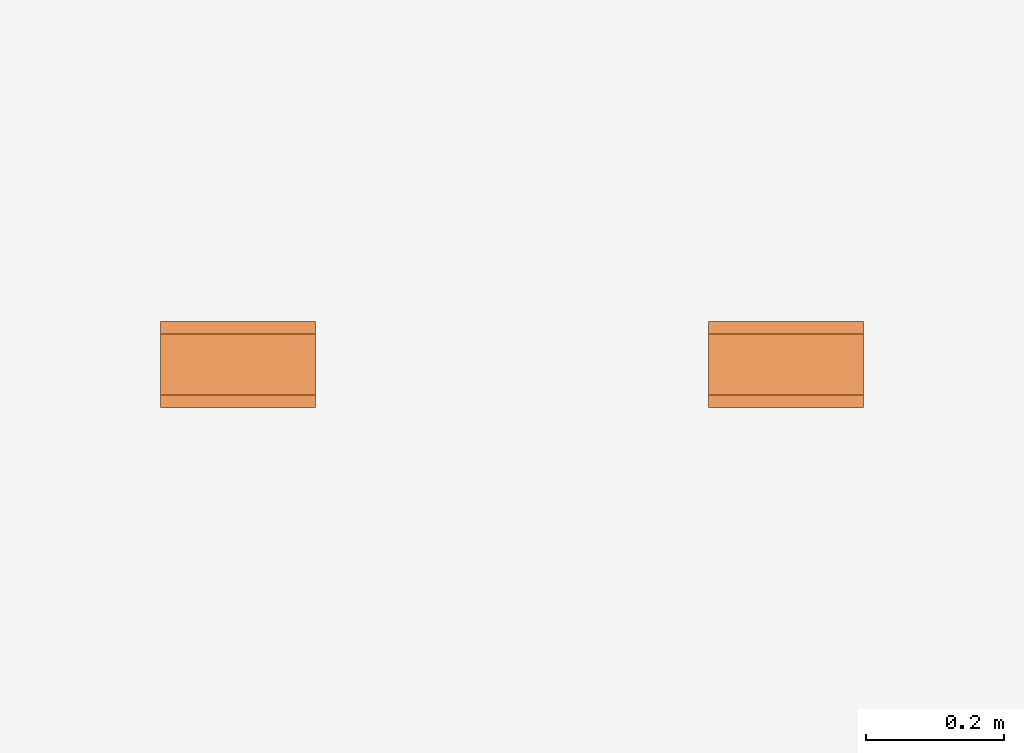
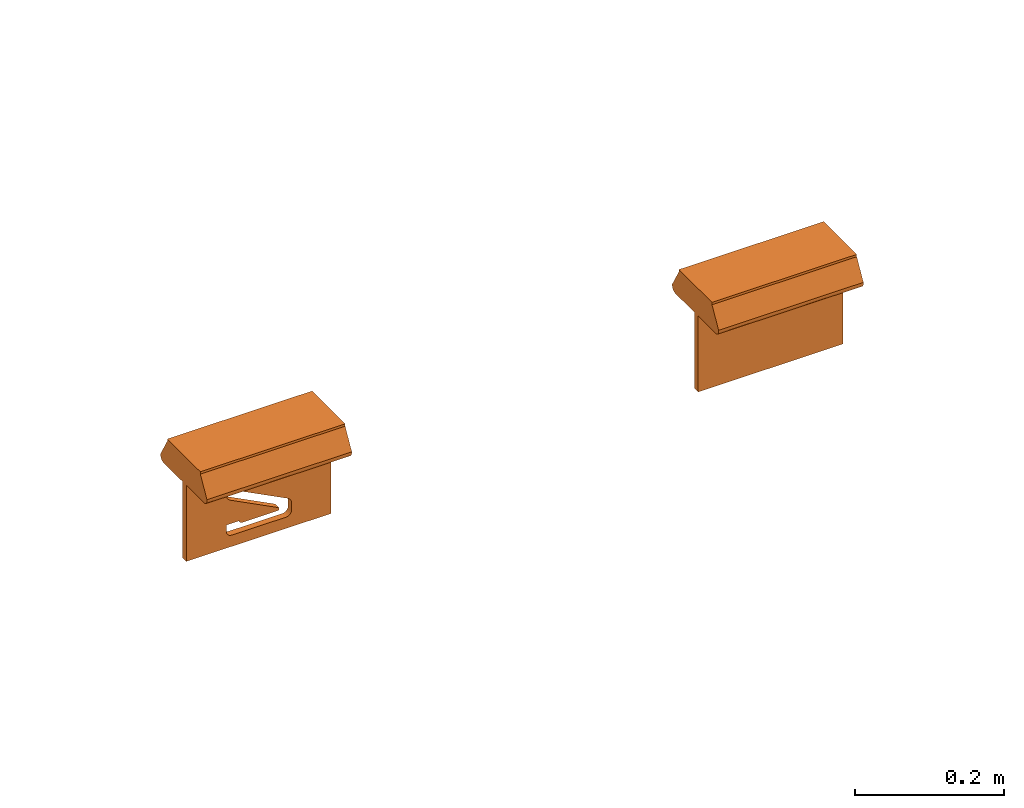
# One storey, part 51 of 197: 2 proxies.
"""IFC2X3 building model written with IfcOpenShell, lengths in metres."""

from ifc_helpers import new_model, entity, si_unit, converted_unit, direction, frame, frame_2d, origin, place, context, subcontext, project, spatial, polyline, circle_curve, parameter, trimmed, segment, composite_curve, outline, extrude, source, transform, mapped, material, material_list, type_object, type_shapes, element, save


model = new_model("IFC2X3")

# Units and contexts
model_context = context("Model", 3, precision=1e-05, world=origin(), true_north=direction((6.123031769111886e-17, 1.0)))
body_context = subcontext(model_context, "Body", "Model", "MODEL_VIEW")
ifc_project = project(units=[si_unit("LENGTHUNIT", "METRE"), converted_unit("PLANEANGLEUNIT", "DEGREE", entity("IfcPlaneAngleMeasure", 0.017453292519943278), si_unit("PLANEANGLEUNIT", "RADIAN"), dimensions=[0, 0, 0, 0, 0, 0, 0]), si_unit("AREAUNIT", "SQUARE_METRE")], contexts=[model_context])

# Site, building, storey
site_placement = place(None, origin())
site = spatial("IfcSite", under=ifc_project, at=site_placement, Name="Default", CompositionType="ELEMENT")
building_placement = place(site_placement, origin())
building = spatial("IfcBuilding", under=site, at=building_placement, CompositionType="ELEMENT")
storey_placement = place(building_placement, origin())
storey = spatial("IfcBuildingStorey", under=building, at=storey_placement, Name="Niveau 0", CompositionType="ELEMENT", Elevation=0.0)

# Proxies
ifc_material_1 = material(Name="BETCE-ETIQUETTE-BLANC")
ifc_material_2 = material(Name="BETCE-ETIQUETTE-VERT 0-193-0")
ifc_material_3 = material(Name="BETCE-VITRE BAES-BLEU")
ifc_material_4 = material(Name="BETCE-ENVELOPPE-BLANC")
ifc_material_list_1 = material_list([ifc_material_1, ifc_material_2, ifc_material_3, ifc_material_4])
building_element_proxy_type_1 = type_object("IfcBuildingElementProxyType", Name="Eclairage de sécurité saillie plafond:AMBIANCE", PredefinedType="NOTDEFINED", material=ifc_material_list_1)
shared_shape_1 = source(origin(), body_context, "Body", "SweptSolid", [
    extrude(outline(polyline([(-0.011070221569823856, -0.05892479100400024), (0.011390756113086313, -0.05892479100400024), (0.0510682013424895, 0.026163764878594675), (0.0288009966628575, 0.026163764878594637), (0.01967698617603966, 0.006597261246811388), (-0.01999752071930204, 0.006597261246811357), (-0.029121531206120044, 0.026163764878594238), (-0.050747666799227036, 0.026163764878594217), (-0.011070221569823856, -0.05892479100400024)]), holes=[polyline([(-0.012794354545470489, -0.00884997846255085), (0.012473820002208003, -0.008849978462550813), (-0.00016026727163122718, -0.0359438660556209), (-0.012794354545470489, -0.00884997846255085)])]), frame((0.0002390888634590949, -0.005, -0.12540916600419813), z_axis=(0.0, 1.0, 0.0), x_axis=(1.0, 0.0, 0.0)), (0.0, 0.0, 1.0), 0.009999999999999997),
    extrude(outline(polyline([(-0.05249999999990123, -0.10250000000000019), (0.052499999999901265, -0.10250000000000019), (0.052499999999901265, 0.10250000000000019), (-0.05249999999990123, 0.10250000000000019), (-0.05249999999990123, -0.10250000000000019)]), holes=[polyline([(0.044072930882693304, 0.050508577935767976), (0.04407293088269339, 0.028882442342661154), (0.024506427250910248, 0.019758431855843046), (0.0245064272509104, -0.01991607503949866), (0.04407293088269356, -0.02904008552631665), (0.04407293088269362, -0.05130729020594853), (-0.041015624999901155, -0.011629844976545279), (-0.041015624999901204, 0.010831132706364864), (0.044072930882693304, 0.050508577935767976)])]), frame((0.0, -0.005, -0.10750000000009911), z_axis=(0.0, 1.0, 0.0), x_axis=(0.0, 0.0, -1.0)), (0.0, 0.0, 1.0), 0.01),
    extrude(outline(polyline([(-0.013524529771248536, -0.0076335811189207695), (0.016370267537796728, -0.007633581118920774), (-0.0028457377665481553, 0.015267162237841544), (-0.013524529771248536, -0.0076335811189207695)])), frame((7.882159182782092e-05, -0.004999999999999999, -0.1075278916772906), z_axis=(0.0, 1.0, 0.0), x_axis=(0.42261826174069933, 0.0, 0.90630778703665)), (0.0, 0.0, 1.0), 0.01),
    extrude(outline(polyline([(-0.06250000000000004, -0.11175180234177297), (0.062499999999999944, -0.11175180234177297), (0.06249999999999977, -5.459731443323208e-05), (0.0625000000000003, 0.11324819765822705), (-0.06249999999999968, 0.11324819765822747), (-0.06250000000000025, -0.0029381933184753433), (-0.06250000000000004, -0.11175180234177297)]), holes=[polyline([(0.052499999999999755, 0.0013023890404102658), (0.05249999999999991, -0.10175180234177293), (-0.05250000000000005, -0.10175180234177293), (-0.05250000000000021, -0.0022597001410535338), (-0.05249999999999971, 0.10324819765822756), (0.05250000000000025, 0.10324819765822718), (0.052499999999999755, 0.0013023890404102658)])]), frame((-0.0007481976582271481, -0.005, -0.10750000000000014), z_axis=(0.0, 1.0, 0.0), x_axis=(0.0, 0.0, 1.0)), (0.0, 0.0, 1.0), 0.01),
    extrude(outline(composite_curve([segment(trimmed(circle_curve(frame_2d((-0.001999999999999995, -0.05449999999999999), x_axis=(1.0, 0.0)), 0.008), [parameter(269.9999999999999)], [parameter(0.0)], True, "PARAMETER"), True, "CONTINUOUS"), segment(polyline([(0.006000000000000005, -0.05449999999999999), (0.006000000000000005, 0.054500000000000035)]), True, "CONTINUOUS"), segment(trimmed(circle_curve(frame_2d((-0.001999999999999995, 0.05450000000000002), x_axis=(1.0, 0.0)), 0.008), [parameter(359.99999999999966)], [parameter(89.99999999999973)], True, "PARAMETER"), True, "CONTINUOUS"), segment(polyline([(-0.0019999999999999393, 0.06250000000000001), (-0.00399999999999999, 0.06250000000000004)]), True, "CONTINUOUS"), segment(polyline([(-0.00399999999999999, 0.06250000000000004), (-0.00399999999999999, -0.0625)]), True, "CONTINUOUS"), segment(polyline([(-0.00399999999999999, -0.0625), (-0.001999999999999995, -0.0625)]), True, "CONTINUOUS")], self_intersect=False)), frame((-0.1125, 0.0019999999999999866, -0.039), z_axis=(1.0, 0.0, 0.0), x_axis=(0.0, 0.0, -1.0)), (0.0, 0.0, 1.0), 0.22499999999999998),
    extrude(outline(polyline([(-0.06250000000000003, -0.02205897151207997), (0.06250000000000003, -0.02205897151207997), (0.044499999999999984, 0.00911794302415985), (0.044499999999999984, 0.012941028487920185), (-0.044499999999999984, 0.012941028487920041), (-0.04449999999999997, 0.009117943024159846), (-0.06250000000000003, -0.02205897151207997)])), frame((-0.11249999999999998, 0.002000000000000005, -0.012941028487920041), z_axis=(1.0, 0.0, 0.0), x_axis=(0.0, 1.0, 0.0)), (0.0, 0.0, 1.0), 0.225),
])
type_shapes(building_element_proxy_type_1, [shared_shape_1])
proxy_1_placement = place(storey_placement, frame((-489.098972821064, 108.51998673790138, 1.4999999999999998)))
element("IfcBuildingElementProxy", 1, at=proxy_1_placement, inside=storey, type_object=building_element_proxy_type_1, material=ifc_material_list_1, Name="Eclairage de sécurité saillie plafond:AMBIANCE", ObjectType="Eclairage de sécurité saillie plafond:AMBIANCE", context=body_context, shape_type="MappedRepresentation", body=[
    mapped(shared_shape_1, transform((0.0, 0.0, 0.0), scale=1.0)),
])
ifc_material_list_2 = material_list([ifc_material_2, ifc_material_4, ifc_material_3])
building_element_proxy_type_2 = type_object("IfcBuildingElementProxyType", Name="Eclairage de sécurité saillie plafond:SORTIE", PredefinedType="NOTDEFINED", material=ifc_material_list_2)
shared_shape_2 = source(origin(), body_context, "Body", "SweptSolid", [
    extrude(outline(polyline([(-0.05249999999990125, -0.10250000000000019), (0.05249999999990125, -0.10250000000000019), (0.05249999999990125, 0.10250000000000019), (-0.05249999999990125, 0.10250000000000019), (-0.05249999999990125, -0.10250000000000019)]), holes=[composite_curve([segment(trimmed(circle_curve(frame_2d((-0.03544806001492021, 0.041676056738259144), x_axis=(0.0, -1.0)), 0.008677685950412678), [parameter(179.9999999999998)], [parameter(269.9999999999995)], True, "PARAMETER"), False, "CONTINUOUS"), segment(polyline([(-0.03544806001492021, 0.05035374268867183), (-0.024600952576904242, 0.05035374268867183)]), True, "CONTINUOUS"), segment(trimmed(circle_curve(frame_2d((-0.024600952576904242, 0.0382049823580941), x_axis=(0.0, -1.0)), 0.01214876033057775), [parameter(125.70439290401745)], [parameter(179.9999999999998)], True, "PARAMETER"), False, "CONTINUOUS"), segment(polyline([(-0.014735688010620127, 0.045295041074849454), (0.0245331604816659, -0.031263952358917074)]), True, "CONTINUOUS"), segment(trimmed(circle_curve(frame_2d((0.02611047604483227, -0.029068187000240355), x_axis=(0.0, -1.0)), 0.0027035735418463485), [parameter(324.30863793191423)], [parameter(90.0000000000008)], True, "PARAMETER"), True, "CONTINUOUS"), segment(polyline([(0.02881404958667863, -0.029068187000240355), (0.028814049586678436, 0.026056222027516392)]), True, "CONTINUOUS"), segment(trimmed(circle_curve(frame_2d((0.024475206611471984, 0.026056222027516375), x_axis=(0.0, -1.0)), 0.004338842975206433), [parameter(90.00000000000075)], [parameter(180.00000000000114)], True, "PARAMETER"), True, "CONTINUOUS"), segment(polyline([(0.024475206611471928, 0.030395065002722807), (0.024475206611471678, 0.05035374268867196)]), True, "CONTINUOUS"), segment(polyline([(0.024475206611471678, 0.05035374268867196), (0.0353223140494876, 0.05035374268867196)]), True, "CONTINUOUS"), segment(trimmed(circle_curve(frame_2d((0.0353223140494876, 0.04167605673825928), x_axis=(0.0, -1.0)), 0.008677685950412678), [parameter(90.00000000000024)], [parameter(179.99999999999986)], True, "PARAMETER"), False, "CONTINUOUS"), segment(polyline([(0.043999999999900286, 0.041676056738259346), (0.04399999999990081, -0.04247476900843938)]), True, "CONTINUOUS"), segment(trimmed(circle_curve(frame_2d((0.03532231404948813, -0.04247476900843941), x_axis=(0.0, -1.0)), 0.008677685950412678), [parameter(3.5622212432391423e-13)], [parameter(89.99999999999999)], True, "PARAMETER"), False, "CONTINUOUS"), segment(polyline([(0.03532231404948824, -0.05115245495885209), (0.024475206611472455, -0.05115245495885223)]), True, "CONTINUOUS"), segment(trimmed(circle_curve(frame_2d((0.024475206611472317, -0.0390036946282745), x_axis=(0.0, -1.0)), 0.01214876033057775), [parameter(305.7043929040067)], [parameter(3.053332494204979e-13)], True, "PARAMETER"), False, "CONTINUOUS"), segment(polyline([(0.014609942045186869, -0.04609375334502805), (-0.023851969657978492, 0.02889202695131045)]), True, "CONTINUOUS"), segment(trimmed(circle_curve(frame_2d((-0.026249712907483, 0.027662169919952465), x_axis=(0.0, -1.0)), 0.00269008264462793), [parameter(117.15431896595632)], [parameter(270.00000000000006)], True, "PARAMETER"), True, "CONTINUOUS"), segment(polyline([(-0.02893979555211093, 0.027662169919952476), (-0.02893979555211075, -0.026854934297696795)]), True, "CONTINUOUS"), segment(trimmed(circle_curve(frame_2d((-0.02460095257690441, -0.026854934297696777), x_axis=(0.0, -1.0)), 0.004338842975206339), [parameter(270.00000000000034)], [parameter(9.159997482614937e-13)], True, "PARAMETER"), True, "CONTINUOUS"), segment(polyline([(-0.02460095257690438, -0.031193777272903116), (-0.024600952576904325, -0.051152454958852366)]), True, "CONTINUOUS"), segment(polyline([(-0.024600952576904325, -0.051152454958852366), (-0.03544806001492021, -0.051152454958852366)]), True, "CONTINUOUS"), segment(trimmed(circle_curve(frame_2d((-0.03544806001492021, -0.04247476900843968), x_axis=(0.0, -1.0)), 0.008677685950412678), [parameter(269.99999999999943)], [parameter(359.9999999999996)], True, "PARAMETER"), False, "CONTINUOUS"), segment(polyline([(-0.04412574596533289, -0.04247476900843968), (-0.04412574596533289, 0.041676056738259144)]), True, "CONTINUOUS")], self_intersect=False)]), frame((0.0, -0.005, -0.10750000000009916), z_axis=(0.0, 1.0, 0.0), x_axis=(0.0, 0.0, -1.0)), (0.0, 0.0, 1.0), 0.01),
    extrude(outline(polyline([(-0.06250000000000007, -0.11175180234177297), (0.06249999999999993, -0.11175180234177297), (0.06249999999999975, -5.459731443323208e-05), (0.06250000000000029, 0.11324819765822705), (-0.0624999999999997, 0.11324819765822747), (-0.06250000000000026, -0.0029381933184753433), (-0.06250000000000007, -0.11175180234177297)]), holes=[polyline([(0.05249999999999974, 0.0013023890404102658), (0.052499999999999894, -0.10175180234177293), (-0.05250000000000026, -0.10175180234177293), (-0.052500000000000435, -0.002259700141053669), (-0.05249999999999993, 0.10324819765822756), (0.052500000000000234, 0.10324819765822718), (0.05249999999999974, 0.0013023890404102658)])]), frame((-0.0007481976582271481, -0.005, -0.10750000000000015), z_axis=(0.0, 1.0, 0.0), x_axis=(0.0, 0.0, 1.0)), (0.0, 0.0, 1.0), 0.01),
    extrude(outline(composite_curve([segment(trimmed(circle_curve(frame_2d((-0.001999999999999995, -0.05449999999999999), x_axis=(1.0, 0.0)), 0.008), [parameter(269.9999999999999)], [parameter(0.0)], True, "PARAMETER"), True, "CONTINUOUS"), segment(polyline([(0.006000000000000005, -0.05449999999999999), (0.006000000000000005, 0.054500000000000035)]), True, "CONTINUOUS"), segment(trimmed(circle_curve(frame_2d((-0.001999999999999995, 0.05450000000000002), x_axis=(1.0, 0.0)), 0.008), [parameter(359.99999999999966)], [parameter(89.99999999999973)], True, "PARAMETER"), True, "CONTINUOUS"), segment(polyline([(-0.0019999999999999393, 0.06250000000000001), (-0.00399999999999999, 0.06250000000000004)]), True, "CONTINUOUS"), segment(polyline([(-0.00399999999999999, 0.06250000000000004), (-0.00399999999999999, -0.0625)]), True, "CONTINUOUS"), segment(polyline([(-0.00399999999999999, -0.0625), (-0.001999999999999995, -0.0625)]), True, "CONTINUOUS")], self_intersect=False)), frame((-0.1125, 0.0019999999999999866, -0.039), z_axis=(1.0, 0.0, 0.0), x_axis=(0.0, 0.0, -1.0)), (0.0, 0.0, 1.0), 0.22499999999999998),
    extrude(outline(polyline([(-0.06250000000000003, -0.02205897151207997), (0.06250000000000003, -0.02205897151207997), (0.044499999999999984, 0.00911794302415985), (0.044499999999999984, 0.012941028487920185), (-0.044499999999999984, 0.012941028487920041), (-0.04449999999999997, 0.009117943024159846), (-0.06250000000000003, -0.02205897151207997)])), frame((-0.11249999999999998, 0.002000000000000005, -0.012941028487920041), z_axis=(1.0, 0.0, 0.0), x_axis=(0.0, 1.0, 0.0)), (0.0, 0.0, 1.0), 0.225),
])
type_shapes(building_element_proxy_type_2, [shared_shape_2])
proxy_2_placement = place(storey_placement, frame((-489.89408824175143, 108.51998673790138, 1.4999999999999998)))
element("IfcBuildingElementProxy", 2, at=proxy_2_placement, inside=storey, type_object=building_element_proxy_type_2, material=ifc_material_list_2, Name="Eclairage de sécurité saillie plafond:SORTIE", ObjectType="Eclairage de sécurité saillie plafond:SORTIE", context=body_context, shape_type="MappedRepresentation", body=[
    mapped(shared_shape_2, transform((0.0, 0.0, 0.0), scale=1.0)),
])

save(model, "model.ifc")
